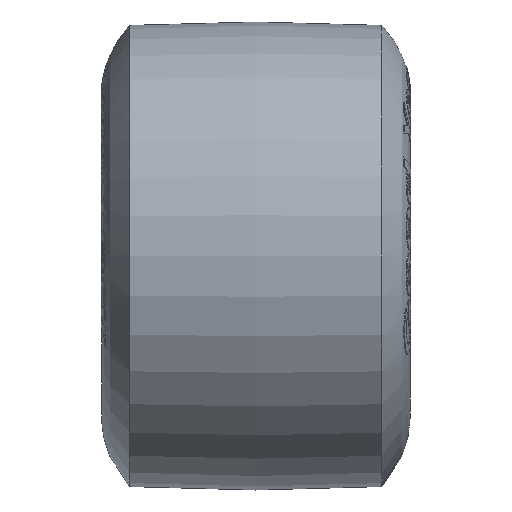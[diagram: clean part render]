
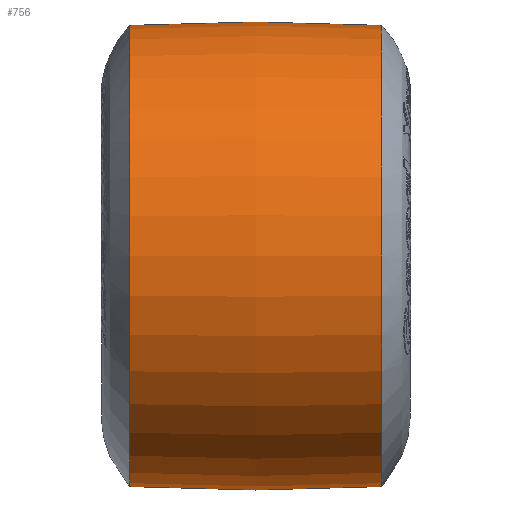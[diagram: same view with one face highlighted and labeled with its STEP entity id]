
A CAD part, front view. The second image highlights one B-rep face of the part: STEP entity #756.
In plain terms, the highlighted face is a revolution surface.
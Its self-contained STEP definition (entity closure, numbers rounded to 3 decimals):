
#756=ADVANCED_FACE('',(#1802,#1803),#1804,.T.);
#1802=FACE_OUTER_BOUND('',#3240,.T.);
#1803=FACE_OUTER_BOUND('',#3241,.T.);
#1804=SURFACE_OF_REVOLUTION('',#3242,#3243);
#3240=EDGE_LOOP('',(#8127));
#3241=EDGE_LOOP('',(#8128));
#3242=(B_SPLINE_CURVE(3,(#8130,#8131,#8132,#8133),.UNSPECIFIED.,.F.,.F.)B_SPLINE_CURVE_WITH_KNOTS((4,4),(0.0,6.283),.UNSPECIFIED.)RATIONAL_B_SPLINE_CURVE((1.0,0.999,0.999,1.0))BOUNDED_CURVE()REPRESENTATION_ITEM('')GEOMETRIC_REPRESENTATION_ITEM()CURVE());
#3243=AXIS1_PLACEMENT('',#8140,#8141);
#8127=ORIENTED_EDGE('',*,*,#12885,.F.);
#8128=ORIENTED_EDGE('',*,*,#13464,.T.);
#8130=CARTESIAN_POINT('',(15.5,0.,148.93));
#8131=CARTESIAN_POINT('',(69.807,0.,151.846));
#8132=CARTESIAN_POINT('',(124.193,0.,151.846));
#8133=CARTESIAN_POINT('',(178.5,0.,148.93));
#8140=CARTESIAN_POINT('',(97.0,0.,0.));
#8141=DIRECTION('',(1.0,0.,0.));
#12885=EDGE_CURVE('',#14372,#14372,#14373,.T.);
#13464=EDGE_CURVE('',#15358,#15358,#15359,.T.);
#14372=VERTEX_POINT('',#16574);
#14373=CIRCLE('',#16575,148.93);
#15358=VERTEX_POINT('',#22337);
#15359=CIRCLE('',#22338,148.93);
#16574=CARTESIAN_POINT('',(15.5,0.0,148.93));
#16575=AXIS2_PLACEMENT_3D('',#27554,#27555,#27556);
#22337=CARTESIAN_POINT('',(178.5,0.0,148.93));
#22338=AXIS2_PLACEMENT_3D('',#27753,#27754,#27755);
#27554=CARTESIAN_POINT('',(15.5,0.0,0.0));
#27555=DIRECTION('',(-1.0,0.0,0.0));
#27556=DIRECTION('',(0.0,0.0,1.0));
#27753=CARTESIAN_POINT('',(178.5,0.0,0.0));
#27754=DIRECTION('',(-1.0,0.0,0.0));
#27755=DIRECTION('',(0.0,0.0,1.0));
